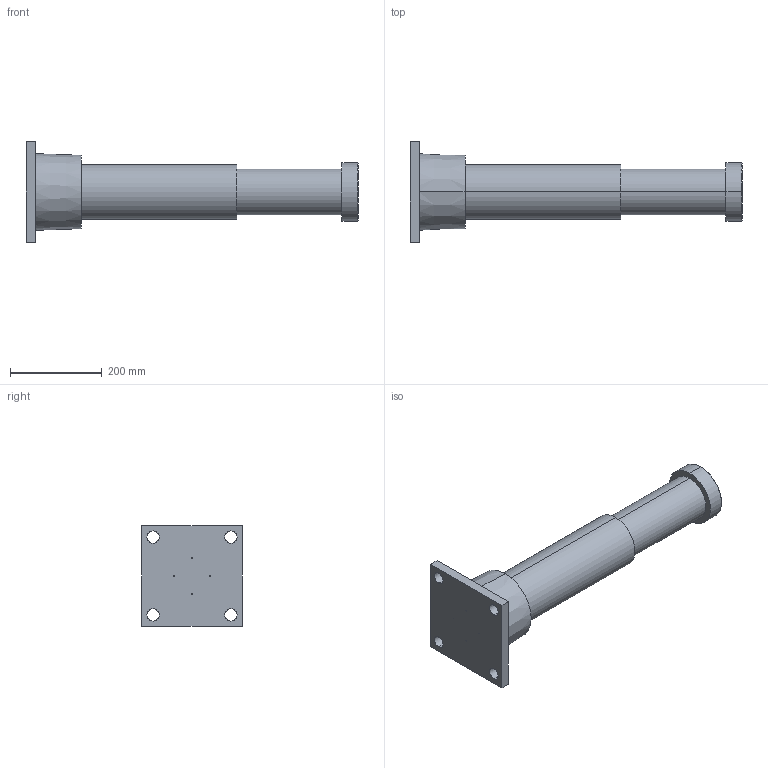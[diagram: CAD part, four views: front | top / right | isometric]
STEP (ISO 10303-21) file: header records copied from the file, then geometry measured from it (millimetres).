
FILE_DESCRIPTION (( 'STEP AP214' ), '1' );
FILE_NAME ('LDH120X200FR.STEP', '2019-01-21T05:00:28', ( 'user' ), ( 'Microsoft' ), 'SwSTEP 2.0', 'SolidWorks 2016', '' );
FILE_SCHEMA (( 'AUTOMOTIVE_DESIGN' ));
Length unit declared in the file: millimetre
Products named in the file (1): LDH120X200FR
Bounding box: 724 x 220 x 220 mm (x, y, z)
Volume: 9110328.6 mm3; surface area: 390226.9 mm2
Topology: 1 solids, 1 shells, 40 faces, 88 edges, 58 vertices
Faces by surface type: cylinder 22, plane 14, cone 4
Entity records: 1176 total; most frequent: DIRECTION 220, CARTESIAN_POINT 187, ORIENTED_EDGE 176, AXIS2_PLACEMENT_3D 91, EDGE_CURVE 88, VERTEX_POINT 58, EDGE_LOOP 56, CIRCLE 50
